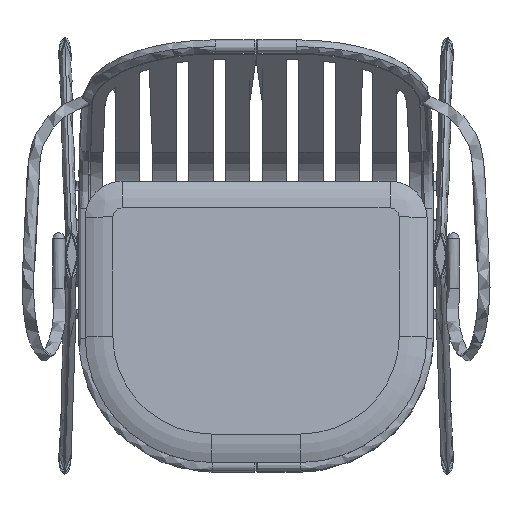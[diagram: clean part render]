
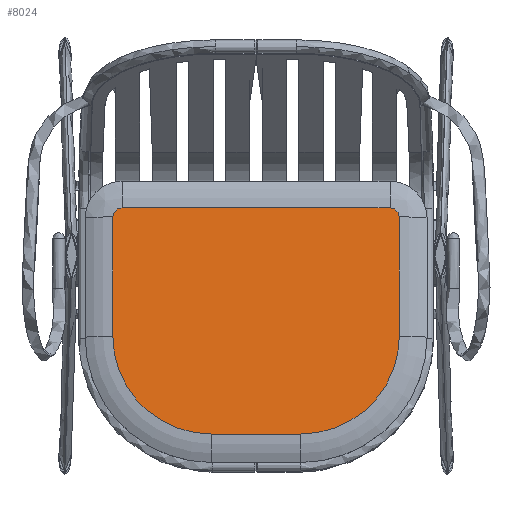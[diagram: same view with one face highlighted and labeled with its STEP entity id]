
A CAD part, top view. The second image highlights one B-rep face of the part: STEP entity #8024.
In plain terms, the highlighted planar face has unit normal (0, 0.122, 0.993) as drawn and (0, 1, 0) by its records, which use the part's own axes.
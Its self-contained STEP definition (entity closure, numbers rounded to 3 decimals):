
#1003=LINE('',#54997,#1348);
#1005=LINE('',#55017,#1350);
#1007=LINE('',#55029,#1352);
#1009=LINE('',#55038,#1354);
#1348=VECTOR('',#10056,10.);
#1350=VECTOR('',#10068,10.);
#1352=VECTOR('',#10082,10.);
#1354=VECTOR('',#10094,10.);
#2360=FACE_OUTER_BOUND('',#2869,.T.);
#2869=EDGE_LOOP('',(#7420,#7421,#7422,#7423,#7424,#7425,#7426,#7427));
#3148=CIRCLE('',#8653,15.);
#3152=CIRCLE('',#8658,15.);
#3156=CIRCLE('',#8664,160.);
#3160=CIRCLE('',#8670,160.);
#3865=VERTEX_POINT('',#54985);
#3867=VERTEX_POINT('',#54989);
#3869=VERTEX_POINT('',#54994);
#3871=VERTEX_POINT('',#55008);
#3873=VERTEX_POINT('',#55014);
#3875=VERTEX_POINT('',#55020);
#3877=VERTEX_POINT('',#55026);
#3879=VERTEX_POINT('',#55032);
#5043=EDGE_CURVE('',#3865,#3867,#3148,.T.);
#5046=EDGE_CURVE('',#3869,#3865,#1003,.T.);
#5049=EDGE_CURVE('',#3871,#3869,#3152,.T.);
#5052=EDGE_CURVE('',#3873,#3871,#1005,.T.);
#5055=EDGE_CURVE('',#3875,#3873,#3156,.T.);
#5058=EDGE_CURVE('',#3877,#3875,#1007,.T.);
#5061=EDGE_CURVE('',#3879,#3877,#3160,.T.);
#5063=EDGE_CURVE('',#3867,#3879,#1009,.T.);
#7420=ORIENTED_EDGE('',*,*,#5043,.T.);
#7421=ORIENTED_EDGE('',*,*,#5063,.T.);
#7422=ORIENTED_EDGE('',*,*,#5061,.T.);
#7423=ORIENTED_EDGE('',*,*,#5058,.T.);
#7424=ORIENTED_EDGE('',*,*,#5055,.T.);
#7425=ORIENTED_EDGE('',*,*,#5052,.T.);
#7426=ORIENTED_EDGE('',*,*,#5049,.T.);
#7427=ORIENTED_EDGE('',*,*,#5046,.T.);
#7525=PLANE('',#8681);
#8024=ADVANCED_FACE('',(#2360),#7525,.T.);
#8653=AXIS2_PLACEMENT_3D('',#54991,#10049,#10050);
#8658=AXIS2_PLACEMENT_3D('',#55011,#10061,#10062);
#8664=AXIS2_PLACEMENT_3D('',#55023,#10075,#10076);
#8670=AXIS2_PLACEMENT_3D('',#55035,#10089,#10090);
#8681=AXIS2_PLACEMENT_3D('',#55056,#10121,#10122);
#10049=DIRECTION('center_axis',(0.,1.,0.));
#10050=DIRECTION('ref_axis',(1.,0.,0.));
#10056=DIRECTION('',(0.,0.,1.));
#10061=DIRECTION('center_axis',(0.,1.,0.));
#10062=DIRECTION('ref_axis',(0.,0.,1.));
#10068=DIRECTION('',(-1.,0.,0.));
#10075=DIRECTION('center_axis',(0.,1.,0.));
#10076=DIRECTION('ref_axis',(-1.,0.,0.));
#10082=DIRECTION('',(0.,0.,-1.));
#10089=DIRECTION('center_axis',(0.,1.,0.));
#10090=DIRECTION('ref_axis',(0.,0.,-1.));
#10094=DIRECTION('',(1.,0.,0.));
#10121=DIRECTION('center_axis',(0.,1.,0.));
#10122=DIRECTION('ref_axis',(0.,0.,1.));
#54985=CARTESIAN_POINT('',(-185.,12.5,217.375));
#54989=CARTESIAN_POINT('',(-170.,12.5,232.375));
#54991=CARTESIAN_POINT('Origin',(-170.,12.5,217.375));
#54994=CARTESIAN_POINT('',(-185.,12.5,-217.375));
#54997=CARTESIAN_POINT('',(-185.,12.5,-108.688));
#55008=CARTESIAN_POINT('',(-170.,12.5,-232.375));
#55011=CARTESIAN_POINT('Origin',(-170.,12.5,-217.375));
#55014=CARTESIAN_POINT('',(25.,12.5,-232.375));
#55017=CARTESIAN_POINT('',(12.5,12.5,-232.375));
#55020=CARTESIAN_POINT('',(185.,12.5,-72.375));
#55023=CARTESIAN_POINT('Origin',(25.,12.5,-72.375));
#55026=CARTESIAN_POINT('',(185.,12.5,72.375));
#55029=CARTESIAN_POINT('',(185.,12.5,36.188));
#55032=CARTESIAN_POINT('',(25.,12.5,232.375));
#55035=CARTESIAN_POINT('Origin',(25.,12.5,72.375));
#55038=CARTESIAN_POINT('',(-85.,12.5,232.375));
#55056=CARTESIAN_POINT('Origin',(0.,12.5,0.));
